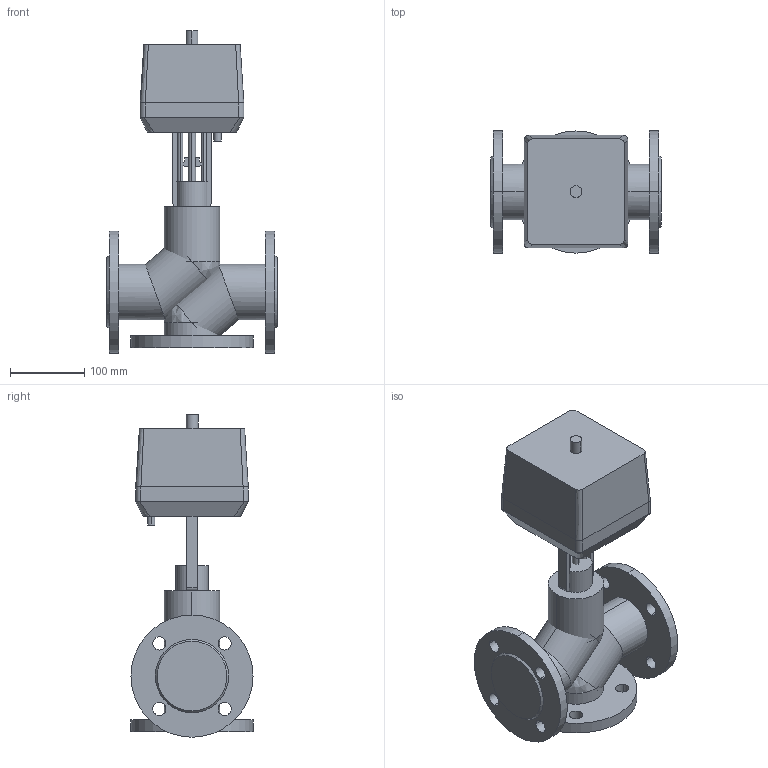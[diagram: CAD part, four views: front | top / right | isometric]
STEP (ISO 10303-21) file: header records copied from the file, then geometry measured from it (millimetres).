
FILE_DESCRIPTION(/* description */ (''),/* implementation_level */ '2;1');
FILE_NAME(/* name */ 'ТРК DN50 PN 1.6 МПа VTM-i 1000H',/* time_stamp */ '2026-07-14T23:23:37+03:00',/* author */ (''),/* organization */ (''),/* preprocessor_version */ 'ST-DEVELOPER v20',/* originating_system */ '',/* authorisation */ '');
FILE_SCHEMA (('AP242_MANAGED_MODEL_BASED_3D_ENGINEERING_MIM_LF { 1 0 10303 442 1 1 4 }'));
Length unit declared in the file: millimetre
Products named in the file (13): TopLevelAssembly; Выдавливание; Модификатор; Модификатор_1; Выдавливание_
1; Выдавливание_
2; Вращение; Выдавливание_
3; Выдавливание_
4; 1600; Переход; Объемная геометрия 
присоединена; Объемная геометрия 
присоединена_1
Assembly tree (12 placements, depth 2):
  TopLevelAssembly
    Выдавливание
    Модификатор
    Модификатор_1
    Выдавливание_
1
    Выдавливание_
2
    Вращение
    Выдавливание_
3
    Выдавливание_
4
    1600
    Переход
    Объемная геометрия 
присоединена
    Объемная геометрия 
присоединена_1
Bounding box: 230 x 165 x 435.5 mm (x, y, z)
Volume: 5125821.4 mm3; surface area: 530571.8 mm2
Topology: 20 solids, 20 shells, 163 faces, 369 edges, 242 vertices
Faces by surface type: plane 77, cylinder 70, bspline 12, cone 4
Entity records: 5294 total; most frequent: CARTESIAN_POINT 1071, DIRECTION 892, ORIENTED_EDGE 722, EDGE_CURVE 361, AXIS2_PLACEMENT_3D 355, VERTEX_POINT 242, EDGE_LOOP 197, LINE 182
